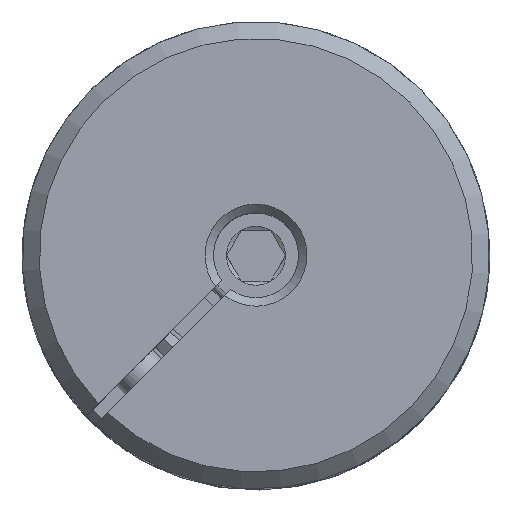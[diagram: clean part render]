
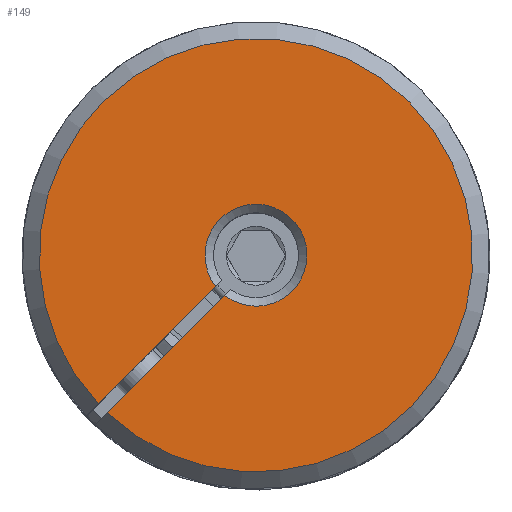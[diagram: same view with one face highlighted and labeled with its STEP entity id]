
A CAD part, top view. The second image highlights one B-rep face of the part: STEP entity #149.
In plain terms, the highlighted planar face has unit normal (0, 0, 1) as drawn and (0, 0, -1) by its records, which use the part's own axes.
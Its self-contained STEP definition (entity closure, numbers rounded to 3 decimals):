
#149 = ADVANCED_FACE( '', ( #315 ), #316, .T. );
#315 = FACE_OUTER_BOUND( '', #535, .T. );
#316 = PLANE( '', #536 );
#535 = EDGE_LOOP( '', ( #1025, #1026, #1027, #1028 ) );
#536 = AXIS2_PLACEMENT_3D( '', #1029, #1030, #1031 );
#1025 = ORIENTED_EDGE( '', *, *, #2057, .F. );
#1026 = ORIENTED_EDGE( '', *, *, #2039, .T. );
#1027 = ORIENTED_EDGE( '', *, *, #2058, .T. );
#1028 = ORIENTED_EDGE( '', *, *, #2059, .T. );
#1029 = CARTESIAN_POINT( '', ( 0., 0., 0. ) );
#1030 = DIRECTION( '', ( 0., 0., -1. ) );
#1031 = DIRECTION( '', ( 0., -1., 0. ) );
#2039 = EDGE_CURVE( '', #2793, #2797, #2799, .T. );
#2057 = EDGE_CURVE( '', #2793, #2830, #2831, .T. );
#2058 = EDGE_CURVE( '', #2797, #2832, #2833, .F. );
#2059 = EDGE_CURVE( '', #2832, #2830, #2834, .F. );
#2793 = VERTEX_POINT( '', #4772 );
#2797 = VERTEX_POINT( '', #4779 );
#2799 = CIRCLE( '', #4784, 25.5 );
#2830 = VERTEX_POINT( '', #4836 );
#2831 = LINE( '', #4837, #4838 );
#2832 = VERTEX_POINT( '', #4839 );
#2833 = LINE( '', #4840, #4841 );
#2834 = CIRCLE( '', #4842, 6. );
#4772 = CARTESIAN_POINT( '', ( -25.489, 0.75, 0. ) );
#4779 = CARTESIAN_POINT( '', ( -25.489, -0.75, 0. ) );
#4784 = AXIS2_PLACEMENT_3D( '', #5890, #5891, #5892 );
#4836 = CARTESIAN_POINT( '', ( -5.953, 0.75, 0. ) );
#4837 = CARTESIAN_POINT( '', ( -27.5, 0.75, 0. ) );
#4838 = VECTOR( '', #5919, 1000. );
#4839 = CARTESIAN_POINT( '', ( -5.953, -0.75, 0. ) );
#4840 = CARTESIAN_POINT( '', ( 0., -0.75, 0. ) );
#4841 = VECTOR( '', #5920, 1000. );
#4842 = AXIS2_PLACEMENT_3D( '', #5921, #5922, #5923 );
#5890 = CARTESIAN_POINT( '', ( 0., 0., 0. ) );
#5891 = DIRECTION( '', ( 0., 0., -1. ) );
#5892 = DIRECTION( '', ( -1., 0., 0. ) );
#5919 = DIRECTION( '', ( 1., 0., 0. ) );
#5920 = DIRECTION( '', ( -1., 0., 0. ) );
#5921 = CARTESIAN_POINT( '', ( 0., 0., 0. ) );
#5922 = DIRECTION( '', ( 0., 0., -1. ) );
#5923 = DIRECTION( '', ( -1., 0., 0. ) );
